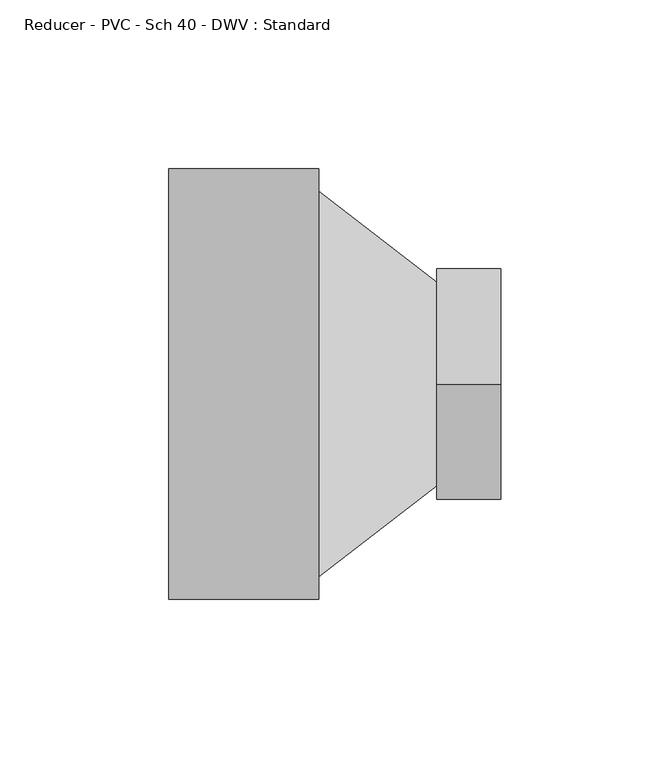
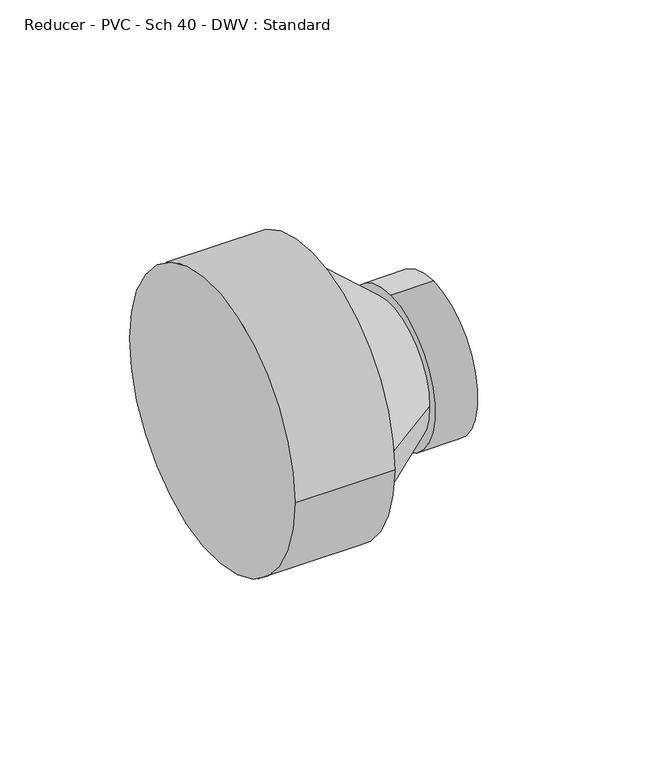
"""IFC4 building model written with IfcOpenShell, lengths in millimetres: pipe fitting geometry, Reducer - PVC - Sch 40 - DWV : Standard."""

import ifcopenshell
import ifcopenshell.guid

model = None  # the IFC model being written
_history = None  # IfcOwnerHistory: only IFC2X3 demands one
_inside = {}  # id of a spatial element -> (the spatial element, [elements in it])
_under = {}  # id of a project, library or spatial element -> (it, [spatial elements below it])
_declared = {}  # id of a project -> (the project, [libraries it declares])
_typed = {}  # id of a type object -> (the type object, [elements of that type])
_made_of = {}  # id of a material, layer set ... -> (it, [elements and type objects made of it])


def new_model(schema):
    """Start an empty IFC model of exactly this schema.

    Asked for "IFC4X3", IfcOpenShell would pick the latest addendum, in which some entities
    have other attributes; the version numbers below select the first issue.
    IFC2X3 requires an IfcOwnerHistory on every rooted entity: one is made here for all.
    """
    global model, _history
    if schema == "IFC4X3":
        model = ifcopenshell.file(schema_version=(4, 3, 0, 0))
    else:
        model = ifcopenshell.file(schema=schema)
    _inside.clear()
    _under.clear()
    _declared.clear()
    _typed.clear()
    _made_of.clear()
    _history = None
    if model.schema == "IFC2X3":
        org = make("IfcOrganization", Name="unknown")
        user = make(
            "IfcPersonAndOrganization",
            ThePerson=make("IfcPerson", FamilyName="unknown"),
            TheOrganization=org,
        )
        app = make(
            "IfcApplication",
            ApplicationDeveloper=org,
            Version="unknown",
            ApplicationFullName="unknown",
            ApplicationIdentifier="unknown",
        )
        _history = make(
            "IfcOwnerHistory",
            OwningUser=user,
            OwningApplication=app,
            ChangeAction="ADDED",
            CreationDate=0,
        )
    return model


def make(cls, **values):
    """One entity of the class cls with the attributes given. An attribute that is None is left unset."""
    return model.create_entity(
        cls, **{name: value for name, value in values.items() if value is not None}
    )


def rooted(cls, **values):
    """An entity with a GlobalId (a new one), such as an element, a storey or a relation."""
    return make(cls, GlobalId=ifcopenshell.guid.new(), OwnerHistory=_history, **values)


def si_unit(unit_type, name, prefix=None):
    """IfcSIUnit, for example si_unit("LENGTHUNIT", "METRE", prefix="MILLI")."""
    return make("IfcSIUnit", UnitType=unit_type, Prefix=prefix, Name=name)


def assignment(units):
    """IfcUnitAssignment: the units of a project."""
    return None if units is None else make("IfcUnitAssignment", Units=units)


def point(xyz):
    """IfcCartesianPoint."""
    return None if xyz is None else make("IfcCartesianPoint", Coordinates=xyz)


def direction(xyz):
    """IfcDirection."""
    return None if xyz is None else make("IfcDirection", DirectionRatios=xyz)


def frame(location, z_axis=None, x_axis=None):
    """IfcAxis2Placement3D, a coordinate frame: its origin and axes. An axis left out is left unset."""
    return make(
        "IfcAxis2Placement3D",
        Location=point(location),
        Axis=direction(z_axis),
        RefDirection=direction(x_axis),
    )


def origin():
    """The frame at (0, 0, 0) with its axes left unset."""
    return frame((0.0, 0.0, 0.0))


def place(relative_to, where):
    """IfcLocalPlacement: puts the frame where relative to a parent placement (None: the world)."""
    return make(
        "IfcLocalPlacement", PlacementRelTo=relative_to, RelativePlacement=where
    )


def context(
    kind, dimensions, precision=None, world=None, true_north=None, identifier=None
):
    """IfcGeometricRepresentationContext, for example the 3D "Model" context."""
    return make(
        "IfcGeometricRepresentationContext",
        ContextIdentifier=identifier,
        ContextType=kind,
        CoordinateSpaceDimension=dimensions,
        Precision=precision,
        WorldCoordinateSystem=world,
        TrueNorth=true_north,
    )


def project(units=None, contexts=None):
    """IfcProject with its units and contexts."""
    return rooted(
        "IfcProject",
        Name="project",
        RepresentationContexts=contexts,
        UnitsInContext=assignment(units),
    )


def spatial(cls, under=None, at=None, **own):
    """A site, building, storey or space (cls), placed at a placement, below another one or the project."""
    s = rooted(cls, ObjectPlacement=at, **own)
    if under is not None:
        _under.setdefault(under.id(), (under, []))[1].append(s)
    return s


def circle_curve(where, radius):
    """IfcCircle in the frame where."""
    return make("IfcCircle", Position=where, Radius=radius)


def shape(context_of_items, identifier, shape_type, items):
    """IfcShapeRepresentation: the items that make up one representation, for example the "Body"."""
    return make(
        "IfcShapeRepresentation",
        ContextOfItems=context_of_items,
        RepresentationIdentifier=identifier,
        RepresentationType=shape_type,
        Items=items,
    )


def source(mapping_origin, context_of_items, identifier, shape_type, items):
    """IfcRepresentationMap: a shape defined once, which mapped items show again and again."""
    return make(
        "IfcRepresentationMap",
        MappingOrigin=mapping_origin,
        MappedRepresentation=shape(context_of_items, identifier, shape_type, items),
    )


def transform(
    local_origin,
    x_axis=None,
    y_axis=None,
    z_axis=None,
    scale=None,
    scale2=None,
    scale3=None,
    uniform=True,
):
    """IfcCartesianTransformationOperator3D, or its non-uniform kind. x_axis, y_axis, z_axis: its Axis1, 2, 3."""
    if uniform:
        return make(
            "IfcCartesianTransformationOperator3D",
            Axis1=direction(x_axis),
            Axis2=direction(y_axis),
            LocalOrigin=point(local_origin),
            Scale=scale,
            Axis3=direction(z_axis),
        )
    return make(
        "IfcCartesianTransformationOperator3DnonUniform",
        Axis1=direction(x_axis),
        Axis2=direction(y_axis),
        LocalOrigin=point(local_origin),
        Scale=scale,
        Axis3=direction(z_axis),
        Scale2=scale2,
        Scale3=scale3,
    )


def mapped(mapping_source, mapping_target):
    """IfcMappedItem: shows the shape of a source again, moved by a transform."""
    return make(
        "IfcMappedItem", MappingSource=mapping_source, MappingTarget=mapping_target
    )


def made_of(thing, what):
    """Note that an element or type object is made of a material, layer set ...; save() writes the relation."""
    if what is not None:
        _made_of.setdefault(what.id(), (what, []))[1].append(thing)
    return thing


def element(
    cls,
    number,
    at=None,
    inside=None,
    cuts=None,
    type_object=None,
    material=None,
    context=None,
    identifier="Body",
    shape_type=None,
    held_by="IfcProductDefinitionShape",
    body=None,
    shapes=None,
    **own,
):
    """One element of the class cls, such as IfcWall. Its Tag is "e" and its number.

    at: its placement. inside: the storey or other place that contains it. cuts: it is an
    opening in that element (IfcRelVoidsElement). A single representation is given by context,
    identifier, shape_type and body (its items); several are given by shapes. held_by: the class
    of the entity that holds the representations. save() writes the other relations.
    """
    e = rooted(cls, Tag="e%d" % number, ObjectPlacement=at, **own)
    if body is not None:
        shapes = [shape(context, identifier, shape_type, body)]
    if shapes is not None:
        e.Representation = make(held_by, Representations=shapes)
    if inside is not None:
        _inside.setdefault(inside.id(), (inside, []))[1].append(e)
    if cuts is not None:
        rooted(
            "IfcRelVoidsElement", RelatingBuildingElement=cuts, RelatedOpeningElement=e
        )
    if type_object is not None:
        _typed.setdefault(type_object.id(), (type_object, []))[1].append(e)
    return made_of(e, material)


def aggregate(whole, parts):
    """IfcRelAggregates: a whole, such as a stair, and the parts it consists of."""
    return rooted("IfcRelAggregates", RelatingObject=whole, RelatedObjects=parts)


def save(model, path):
    """Write the relations noted so far, then the file.

    IfcRelAggregates (storeys below a building ...), IfcRelContainedInSpatialStructure (elements
    in a storey), IfcRelDefinesByType, IfcRelAssociatesMaterial and IfcRelDeclares: one each for
    every whole, place, type object, material and project.
    """
    for whole, parts in _under.values():
        aggregate(whole, parts)
    for where, things in _inside.values():
        rooted(
            "IfcRelContainedInSpatialStructure",
            RelatedElements=things,
            RelatingStructure=where,
        )
    for kind, things in _typed.values():
        rooted("IfcRelDefinesByType", RelatedObjects=things, RelatingType=kind)
    for what, things in _made_of.values():
        rooted("IfcRelAssociatesMaterial", RelatedObjects=things, RelatingMaterial=what)
    for by, libraries in _declared.values():
        rooted("IfcRelDeclares", RelatingContext=by, RelatedDefinitions=libraries)
    model.write(path)


def plane_surface(at):
    """IfcPlane: the flat surface through the origin of the frame at, square to its z axis."""
    return make("IfcPlane", Position=at)


def cylinder_surface(at, radius):
    """IfcCylindricalSurface: all points at the distance radius from the z axis of the frame at."""
    return make("IfcCylindricalSurface", Position=at, Radius=radius)


def spline_surface(u_degree, v_degree, points, u_multiplicities, v_multiplicities, u_knots, v_knots, weights=None):
    """IfcBSplineSurfaceWithKnots; with weights, IfcRationalBSplineSurfaceWithKnots. points: one row for each step in u."""
    own = dict(
        UDegree=u_degree,
        VDegree=v_degree,
        ControlPointsList=[[point(p) for p in row] for row in points],
        SurfaceForm="UNSPECIFIED",
        UClosed=False,
        VClosed=False,
        SelfIntersect=False,
        UMultiplicities=u_multiplicities,
        VMultiplicities=v_multiplicities,
        UKnots=u_knots,
        VKnots=v_knots,
        KnotSpec="UNSPECIFIED",
    )
    if weights is None:
        return make("IfcBSplineSurfaceWithKnots", **own)
    return make("IfcRationalBSplineSurfaceWithKnots", WeightsData=weights, **own)


def advanced_brep(points, edges, surfaces, faces):
    """IfcAdvancedBrep: a solid bounded by faces that lie on surfaces and meet in shared edges.

    An edge is (start, end): straight between two places in points (the first is 0);
    or (start, end, curve); or (start, end, curve, False) where it runs against its curve.
    A face is (place in surfaces, loops), or (place, loops, False) where it looks against
    its surface's normal. A loop lists edges by number (the first is 1), with a minus sign
    where the edge is run from its end to its start. The first loop is the outer one.
    """
    corners = [point(p) for p in points]
    vertices = [make("IfcVertexPoint", VertexGeometry=c) for c in corners]
    made = []
    for start, end, *more in edges:
        made.append(
            make(
                "IfcEdgeCurve",
                EdgeStart=vertices[start],
                EdgeEnd=vertices[end],
                EdgeGeometry=more[0] if more else make("IfcPolyline", Points=[corners[start], corners[end]]),
                SameSense=more[1] if len(more) > 1 else True,
            )
        )
    hull = []
    for where, loops, *sense in faces:
        bounds = []
        for j, loop in enumerate(loops):
            ring = [make("IfcOrientedEdge", EdgeElement=made[abs(k) - 1], Orientation=k > 0) for k in loop]
            bounds.append(
                make(
                    "IfcFaceOuterBound" if j == 0 else "IfcFaceBound",
                    Bound=make("IfcEdgeLoop", EdgeList=ring),
                    Orientation=True,
                )
            )
        hull.append(make("IfcAdvancedFace", Bounds=bounds, FaceSurface=surfaces[where], SameSense=sense[0] if sense else True))
    return make("IfcAdvancedBrep", Outer=make("IfcClosedShell", CfsFaces=hull))


def reducer_pvc_sch_40_dwv_standard_30c8b44d(model_context):
    return source(origin(), model_context, "Body", "AdvancedBrep", [
        advanced_brep(
        [(0.0, -63.754, 0.0), (0.0, 63.754, 0.0), (44.45, -63.754, 0.0), (44.45, 63.754, 0.0), (44.45, 57.15, 0.0), (44.45, -57.15, 0.0), (79.375, 30.1306933, -3.0534398), (79.375, -30.1943067, -3.0534398), (79.375, -0.0318067, 31.2619602), (79.375, -0.0318067, -37.3688398), (98.425, -0.0318067, 31.2619602), (98.425, -0.0318067, -37.3688398)],
        [
            (0, 1, circle_curve(frame((0.0, 0.0, 0.0), z_axis=(-1.0, 0.0, 0.0), x_axis=(0.0, 1.0, 0.0)), 63.754)),
            (1, 0, circle_curve(frame((0.0, 0.0, 0.0), z_axis=(-1.0, 0.0, 0.0), x_axis=(0.0, 1.0, 0.0)), 63.754)),
            (2, 3, circle_curve(frame((44.45, 0.0, 0.0), z_axis=(1.0, 0.0, 0.0), x_axis=(0.0, 1.0, 0.0)), 63.754)),
            (3, 2, circle_curve(frame((44.45, 0.0, 0.0), z_axis=(1.0, 0.0, 0.0), x_axis=(0.0, 1.0, 0.0)), 63.754)),
            (4, 5, circle_curve(frame((44.45, 0.0, 0.0), z_axis=(-1.0, 0.0, 0.0), x_axis=(0.0, 1.0, 0.0)), 57.15)),
            (5, 4, circle_curve(frame((44.45, 0.0, 0.0), z_axis=(-1.0, 0.0, 0.0), x_axis=(0.0, 1.0, 0.0)), 57.15)),
            (0, 2),
            (3, 1),
            (4, 6),
            (6, 7, circle_curve(frame((79.375, -0.0318067, -3.0534398), z_axis=(-1.0, 0.0, 0.0), x_axis=(0.0, 1.0, 0.0)), 30.1625)),
            (7, 5),
            (7, 6, circle_curve(frame((79.375, -0.0318067, -3.0534398), z_axis=(-1.0, 0.0, 0.0), x_axis=(0.0, 1.0, 0.0)), 30.1625)),
            (8, 9, circle_curve(frame((79.375, -0.0318067, -3.0534398), z_axis=(-1.0, 0.0, 0.0), x_axis=(0.0, 0.0, -1.0)), 34.3154)),
            (9, 8, circle_curve(frame((79.375, -0.0318067, -3.0534398), z_axis=(-1.0, 0.0, 0.0), x_axis=(0.0, 0.0, -1.0)), 34.3154)),
            (10, 11, circle_curve(frame((98.425, -0.0318067, -3.0534398), z_axis=(1.0, 0.0, 0.0), x_axis=(0.0, 0.0, -1.0)), 34.3154)),
            (11, 10, circle_curve(frame((98.425, -0.0318067, -3.0534398), z_axis=(1.0, 0.0, 0.0), x_axis=(0.0, 0.0, -1.0)), 34.3154)),
            (8, 10),
            (11, 9),
        ],
        [
            plane_surface(frame((0.0, 0.0, 0.0), z_axis=(-1.0, 0.0, 0.0), x_axis=(0.0, 0.0, 1.0))),
            plane_surface(frame((44.45, 0.0, 0.0), z_axis=(1.0, 0.0, 0.0), x_axis=(0.0, 0.0, 1.0))),
            cylinder_surface(frame((0.0, 0.0, 0.0), z_axis=(-1.0, 0.0, 0.0), x_axis=(0.0, 1.0, 0.0)), 63.754),
            spline_surface(2, 1, [[(44.45, -57.15, 0.0), (79.375, -30.1943067, -3.0534398)], [(44.45, -57.15, -57.15), (79.375, -30.1943067, -33.2159398)], [(44.45, 0.0, -57.15), (79.375, -0.0318067, -33.2159398)], [(44.45, 57.15, -57.15), (79.375, 30.130693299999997, -33.2159398)], [(44.45, 57.15, 0.0), (79.375, 30.1306933, -3.0534398)]], [3, 2, 3], [2, 2], [0.0, 1.0, 2.0], [0.0, 1.0], weights=[[1.0, 1.0], [0.7071067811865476, 0.7071067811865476], [1.0, 1.0], [0.7071067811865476, 0.7071067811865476], [1.0, 1.0]]),
            spline_surface(2, 1, [[(44.45, 57.15, 0.0), (79.375, 30.1306933, -3.0534398)], [(44.45, 57.15, 57.15), (79.375, 30.1306933, 27.109060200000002)], [(44.45, 0.0, 57.15), (79.375, -0.0318067, 27.109060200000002)], [(44.45, -57.15, 57.15), (79.375, -30.194306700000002, 27.109060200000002)], [(44.45, -57.15, 0.0), (79.375, -30.1943067, -3.0534398)]], [3, 2, 3], [2, 2], [0.0, 1.0, 2.0], [0.0, 1.0], weights=[[1.0, 1.0], [0.7071067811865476, 0.7071067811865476], [1.0, 1.0], [0.7071067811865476, 0.7071067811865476], [1.0, 1.0]]),
            plane_surface(frame((79.375, -0.0318067, -3.0534398), z_axis=(-1.0, 0.0, 0.0), x_axis=(0.0, 1.0, 0.0))),
            plane_surface(frame((98.425, -0.0318067, -3.0534398), z_axis=(1.0, 0.0, 0.0), x_axis=(0.0, 1.0, 0.0))),
            cylinder_surface(frame((79.375, -0.0318067, -3.0534398), z_axis=(-1.0, 0.0, 0.0), x_axis=(0.0, 0.0, -1.0)), 34.3154),
        ],
        [
            (0, [[1, 2]]),
            (1, [[3, 4], [5, 6]]),
            (2, [[-1, 7, -4, 8]]),
            (2, [[-2, -8, -3, -7]]),
            (3, [[9, 10, 11, -5]]),
            (4, [[-9, -6, -11, 12]]),
            (5, [[13, 14], [-10, -12]]),
            (6, [[15, 16]]),
            (7, [[-13, 17, -16, 18]]),
            (7, [[-14, -18, -15, -17]]),
        ],
    ),
    ])


if __name__ == "__main__":
    model = new_model("IFC4")
    model_context = context("Model", 3, world=origin())
    ifc_project = project(units=[si_unit("LENGTHUNIT", "METRE", prefix="MILLI")], contexts=[model_context])
    site = spatial("IfcSite", under=ifc_project)
    building = spatial("IfcBuilding", under=site)
    placement = place(None, origin())
    reducer_pvc_sch_40_dwv_standard_shape = reducer_pvc_sch_40_dwv_standard_30c8b44d(model_context)
    element("IfcPipeFitting", 1, ObjectType="Reducer - PVC - Sch 40 - DWV : Standard", at=placement, inside=building, context=model_context, shape_type="MappedRepresentation", body=[
        mapped(reducer_pvc_sch_40_dwv_standard_shape, transform((0.0, 0.0, 0.0), x_axis=(1.0, 0.0, 0.0), y_axis=(0.0, 1.0, 0.0), z_axis=(0.0, 0.0, 1.0))),
    ])
    save(model, "model.ifc")
